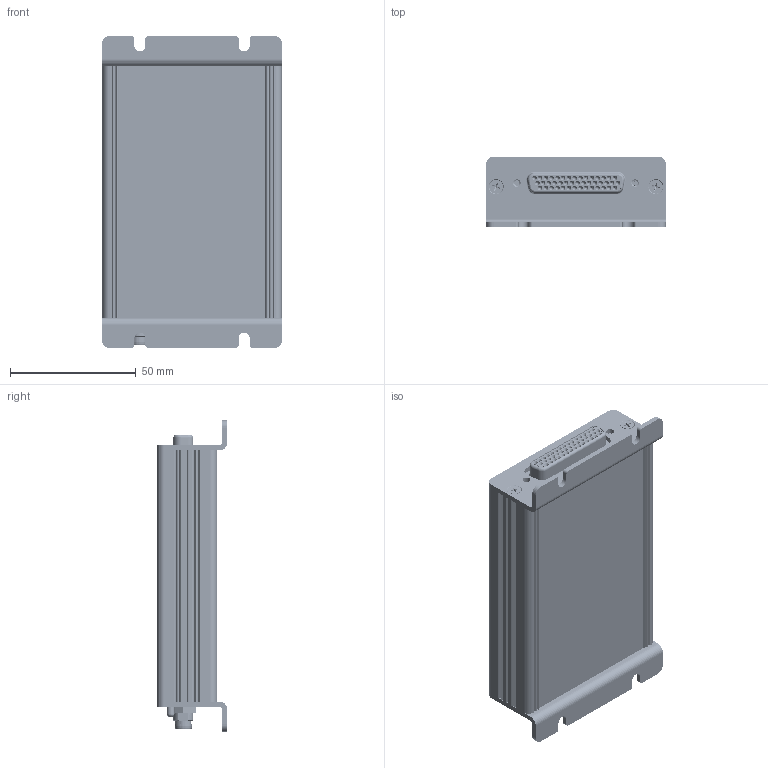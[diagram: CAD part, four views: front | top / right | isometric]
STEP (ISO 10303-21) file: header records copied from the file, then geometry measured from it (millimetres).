
FILE_DESCRIPTION (( 'STEP AP214' ), '1' );
FILE_NAME ('GSV-5A6.STEP', '2024-07-08T09:01:02', ( '' ), ( '' ), 'SwSTEP 2.0', 'SolidWorks 2022', '' );
FILE_SCHEMA (( 'AUTOMOTIVE_DESIGN' ));
Length unit declared in the file: millimetre
Products named in the file (14): HDF44HG; DIN_EN_ISO_7046-1_H_M3_x_10_-_4.8_-_H; 76_6319_1111_00004-0200_v3; led_energy; led_pin.1.1.1; 1043152_IPT_000_Rechteck; 76_6319_1111_00004-0200_v005; 76_6319_1111_00004-0200_v004; 1043152_IPT_000_Kreis&Rechteck; 164A16579X_v1; Folie_v24; 001032109; GSV-5A6; led_pin.2.1
Assembly tree (17 placements, depth 2):
  GSV-5A6
    DIN_EN_ISO_7046-1_H_M3_x_10_-_4.8_-_H  x4
    164A16579X_v1
    Folie_v24
    led_energy
    76_6319_1111_00004-0200_v005
    led_pin.1.1.1
    led_pin.2.1
    76_6319_1111_00004-0200_v004
    HDF44HG
    001032109  x2
    76_6319_1111_00004-0200_v3
    1043152_IPT_000_Kreis&Rechteck
    1043152_IPT_000_Rechteck
Bounding box: 71.5 x 28 x 124 mm (x, y, z)
Volume: 45290.6 mm3; surface area: 81791.3 mm2
Topology: 16 solids, 35 shells, 6555 faces, 17612 edges, 11197 vertices
Faces by surface type: plane 2271, cylinder 1496, cone 1304, bspline 817, torus 647, sphere 20
Entity records: 279368 total; most frequent: CARTESIAN_POINT 56070, ORIENTED_EDGE 33608, DIRECTION 30107, EDGE_CURVE 16807, AXIS2_PLACEMENT_3D 11226, VERTEX_POINT 10703, LINE 7655, VECTOR 7655
